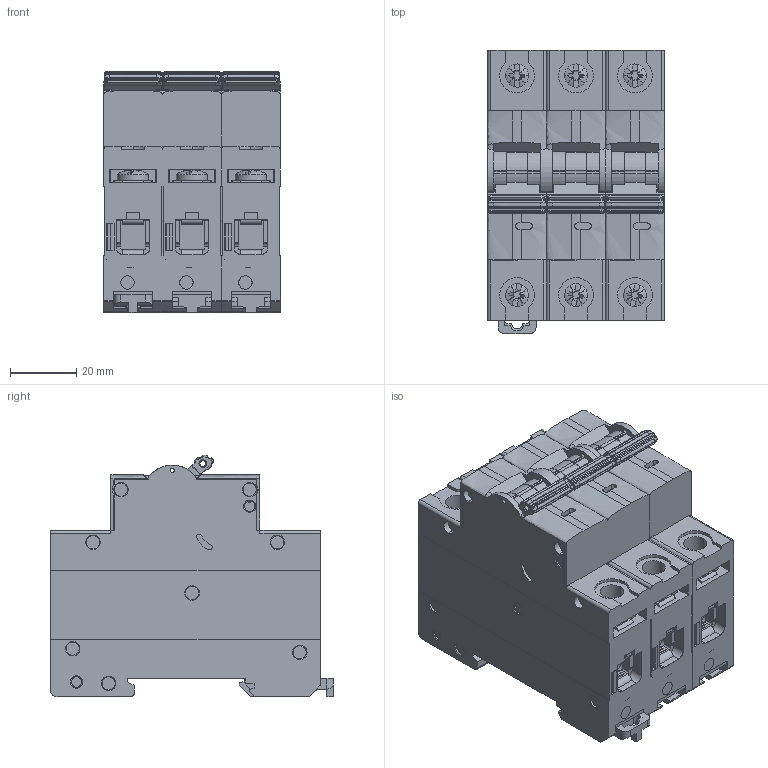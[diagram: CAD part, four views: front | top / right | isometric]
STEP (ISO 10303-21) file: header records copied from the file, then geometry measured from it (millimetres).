
FILE_DESCRIPTION (( 'STEP AP214' ), '1' );
FILE_NAME ('3P.STEP', '2026-07-03T08:30:48', ( '' ), ( '' ), 'SwSTEP 2.0', 'SolidWorks 2022', '' );
FILE_SCHEMA (( 'AUTOMOTIVE_DESIGN' ));
Length unit declared in the file: millimetre
Products named in the file (1): 3P
Bounding box: 53.4 x 85.45 x 72.89 mm (x, y, z)
Volume: 234372.7 mm3; surface area: 43055.4 mm2
Topology: 1 solids, 127 shells, 3917 faces, 10642 edges, 6850 vertices
Faces by surface type: plane 2730, cylinder 724, bspline 182, cone 168, torus 101, sphere 12
Entity records: 133559 total; most frequent: CARTESIAN_POINT 35897, ORIENTED_EDGE 21222, DIRECTION 19124, EDGE_CURVE 10611, LINE 7610, VECTOR 7610, VERTEX_POINT 6850, AXIS2_PLACEMENT_3D 5757
